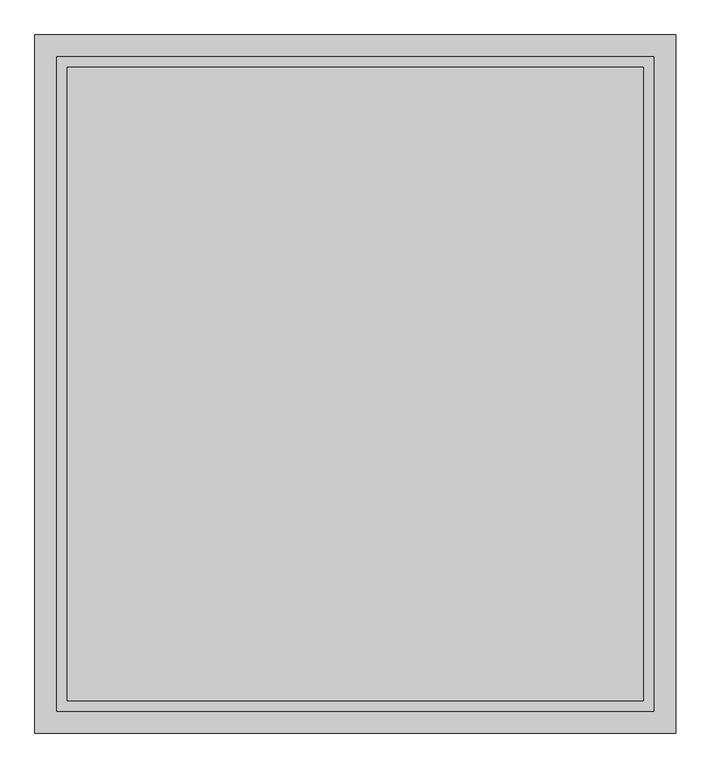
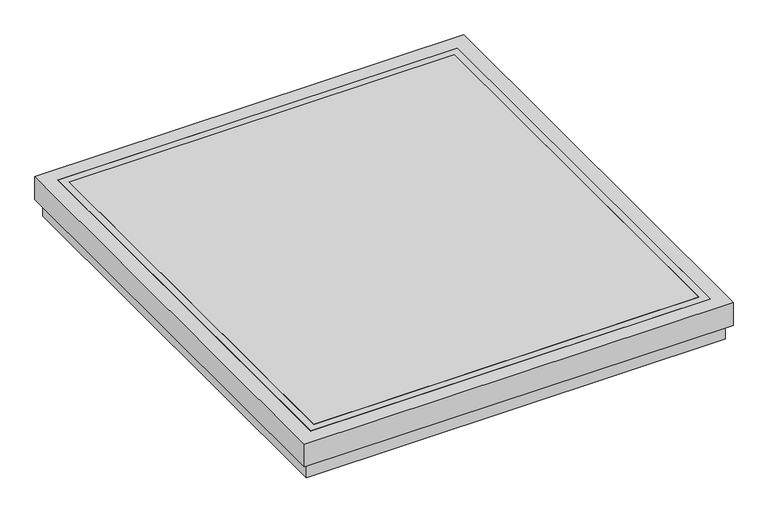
"""IFC4 building model written with IfcOpenShell, lengths in millimetres: proxy geometry, Skydome 1 : Skydome 110x120."""

from ifc_helpers import new_model, si_unit, frame, origin, place, context, project, spatial, polyline, outline, extrude, faceted_brep, source, transform, mapped, element, save


def generic_models_40ee845b(model_context):
    return source(origin(), model_context, "Body", "SolidModel", [
        faceted_brep([(550.0, 600.0, 0.0), (550.0, 600.0, 80.0), (550.0, -600.0, 80.0), (550.0, -600.0, 0.0), (486.5, 536.5, 54.6), (486.5, 536.5, 0.0), (486.5, -536.5, 0.0), (486.5, -536.5, 54.6), (524.6, 574.6, 80.0), (524.6, 574.6, 54.6), (524.6, -574.6, 54.6), (524.6, -574.6, 80.0), (-550.0, -600.0, 80.0), (-550.0, -600.0, 0.0), (-486.5, -536.5, 0.0), (-486.5, -536.5, 54.6), (-524.6, -574.6, 54.6), (-524.6, -574.6, 80.0), (-550.0, 600.0, 80.0), (-550.0, 600.0, 0.0), (-486.5, 536.5, 0.0), (-486.5, 536.5, 54.6), (-524.6, 574.6, 54.6), (-524.6, 574.6, 80.0)], [[[0, 1, 2, 3]], [[4, 5, 6, 7]], [[8, 9, 10, 11]], [[3, 2, 12, 13]], [[7, 6, 14, 15]], [[11, 10, 16, 17]], [[13, 12, 18, 19]], [[15, 14, 20, 21]], [[17, 16, 22, 23]], [[19, 18, 1, 0]], [[3, 13, 19, 0], [5, 20, 14, 6]], [[21, 20, 5, 4]], [[9, 22, 16, 10], [7, 15, 21, 4]], [[23, 22, 9, 8]], [[1, 18, 12, 2], [11, 17, 23, 8]]]),
        extrude(outline(polyline([(505.55, 555.55), (505.55, -555.55), (-505.55, -555.55), (-505.55, 555.55), (505.55, 555.55)])), frame((0.0, 0.0, 99.84375), z_axis=(0.0, 0.0, 1.0), x_axis=(1.0, 0.0, 0.0)), (0.0, 0.0, 1.0), 5.55625),
        faceted_brep([(524.6, 574.6, 54.6), (524.6, 574.6, 105.4), (524.6, -574.6, 105.4), (524.6, -574.6, 54.6), (486.5, 536.5, 86.35), (486.5, 536.5, 54.6), (486.5, -536.5, 54.6), (486.5, -536.5, 86.35), (505.55, 555.55, 105.4), (505.55, 555.55, 86.35), (505.55, -555.55, 86.35), (505.55, -555.55, 105.4), (-524.6, -574.6, 105.4), (-524.6, -574.6, 54.6), (-486.5, -536.5, 54.6), (-486.5, -536.5, 86.35), (-505.55, -555.55, 86.35), (-505.55, -555.55, 105.4), (-524.6, 574.6, 105.4), (-524.6, 574.6, 54.6), (-486.5, 536.5, 54.6), (-486.5, 536.5, 86.35), (-505.55, 555.55, 86.35), (-505.55, 555.55, 105.4)], [[[0, 1, 2, 3]], [[4, 5, 6, 7]], [[8, 9, 10, 11]], [[3, 2, 12, 13]], [[7, 6, 14, 15]], [[11, 10, 16, 17]], [[13, 12, 18, 19]], [[15, 14, 20, 21]], [[17, 16, 22, 23]], [[1, 18, 12, 2], [11, 17, 23, 8]], [[19, 18, 1, 0]], [[3, 13, 19, 0], [5, 20, 14, 6]], [[21, 20, 5, 4]], [[9, 22, 16, 10], [7, 15, 21, 4]], [[23, 22, 9, 8]]]),
        faceted_brep([(562.7, 612.7, 41.9), (562.7, 612.7, 105.4), (562.7, -612.7, 105.4), (562.7, -612.7, 41.9), (550.0, 600.0, 80.0), (550.0, 600.0, 41.9), (550.0, -600.0, 41.9), (550.0, -600.0, 80.0), (524.6, 574.6, 105.4), (524.6, 574.6, 80.0), (524.6, -574.6, 80.0), (524.6, -574.6, 105.4), (-562.7, -612.7, 105.4), (-562.7, -612.7, 41.9), (-550.0, -600.0, 41.9), (-550.0, -600.0, 80.0), (-524.6, -574.6, 80.0), (-524.6, -574.6, 105.4), (-562.7, 612.7, 105.4), (-562.7, 612.7, 41.9), (-550.0, 600.0, 41.9), (-550.0, 600.0, 80.0), (-524.6, 574.6, 80.0), (-524.6, 574.6, 105.4)], [[[0, 1, 2, 3]], [[4, 5, 6, 7]], [[8, 9, 10, 11]], [[3, 2, 12, 13]], [[7, 6, 14, 15]], [[11, 10, 16, 17]], [[13, 12, 18, 19]], [[15, 14, 20, 21]], [[17, 16, 22, 23]], [[1, 18, 12, 2], [11, 17, 23, 8]], [[19, 18, 1, 0]], [[3, 13, 19, 0], [5, 20, 14, 6]], [[21, 20, 5, 4]], [[7, 15, 21, 4], [9, 22, 16, 10]], [[23, 22, 9, 8]]]),
    ])


if __name__ == "__main__":
    model = new_model("IFC4")
    model_context = context("Model", 3, world=origin())
    ifc_project = project(units=[si_unit("LENGTHUNIT", "METRE", prefix="MILLI")], contexts=[model_context])
    site = spatial("IfcSite", under=ifc_project)
    building = spatial("IfcBuilding", under=site)
    placement = place(None, origin())
    generic_models_shape = generic_models_40ee845b(model_context)
    element("IfcBuildingElementProxy", 1, Name="Skydome 1 : Skydome 110x120", ObjectType="Skydome 1 : Skydome 110x120", at=placement, inside=building, context=model_context, shape_type="MappedRepresentation", body=[
        mapped(generic_models_shape, transform((0.0, 0.0, 0.0), x_axis=(1.0, 0.0, 0.0), y_axis=(0.0, 1.0, 0.0), z_axis=(0.0, 0.0, 1.0))),
    ])
    save(model, "model.ifc")
